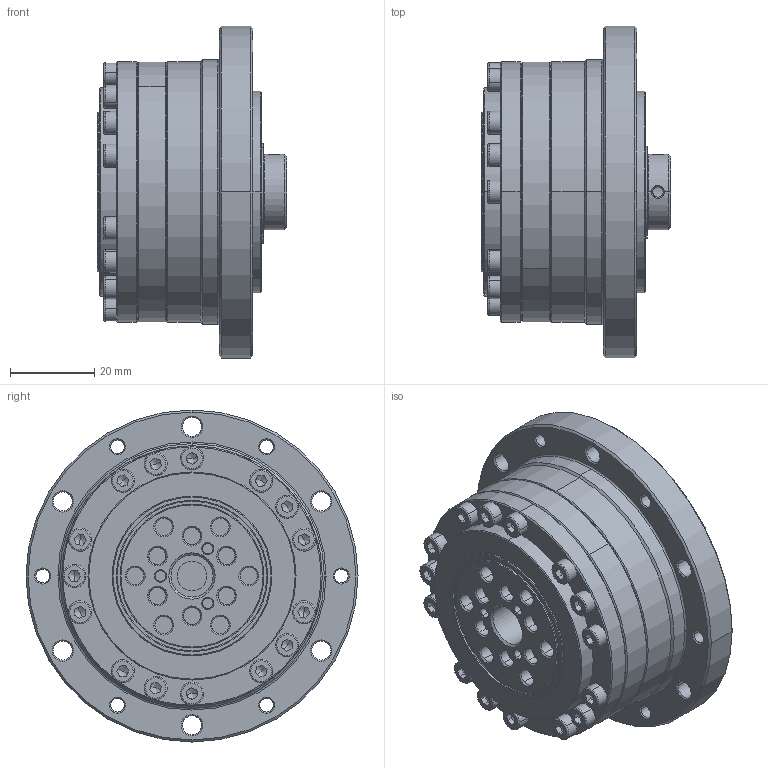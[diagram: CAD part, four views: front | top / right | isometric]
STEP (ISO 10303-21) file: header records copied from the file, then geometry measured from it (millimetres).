
FILE_DESCRIPTION(('STEP AP214'),'1');
FILE_NAME('cctmp_084FB1B5-2452-495F-9A10-6FB49943939F_2025_03_06_11_17_12_0168_92828..stp','2025-03-06T10:17:12',('HIWIN GmbH'),('CADClick - www.CADClick.com'),'Spatial InterOp 3D',' ','unknown authorization');
FILE_SCHEMA(('AUTOMOTIVE_DESIGN'));
Length unit declared in the file: millimetre
Products named in the file (2): DSC-17-XX-PO_FILE; 2025_03_06_11_17_12_0168
Assembly tree (1 placements, depth 2):
  DSC-17-XX-PO_FILE
    2025_03_06_11_17_12_0168
Bounding box: 45 x 79 x 79 mm (x, y, z)
Volume: 119218.6 mm3; surface area: 25760.6 mm2
Topology: 1 solids, 1 shells, 796 faces, 2068 edges, 1269 vertices
Faces by surface type: cylinder 288, plane 210, cone 160, torus 88, sphere 46, bspline 4
Entity records: 32254 total; most frequent: CARTESIAN_POINT 5950, DIRECTION 4647, ORIENTED_EDGE 4076, AXIS2_PLACEMENT_3D 2004, EDGE_CURVE 1992, VERTEX_POINT 1269, CIRCLE 1210, EDGE_LOOP 897
